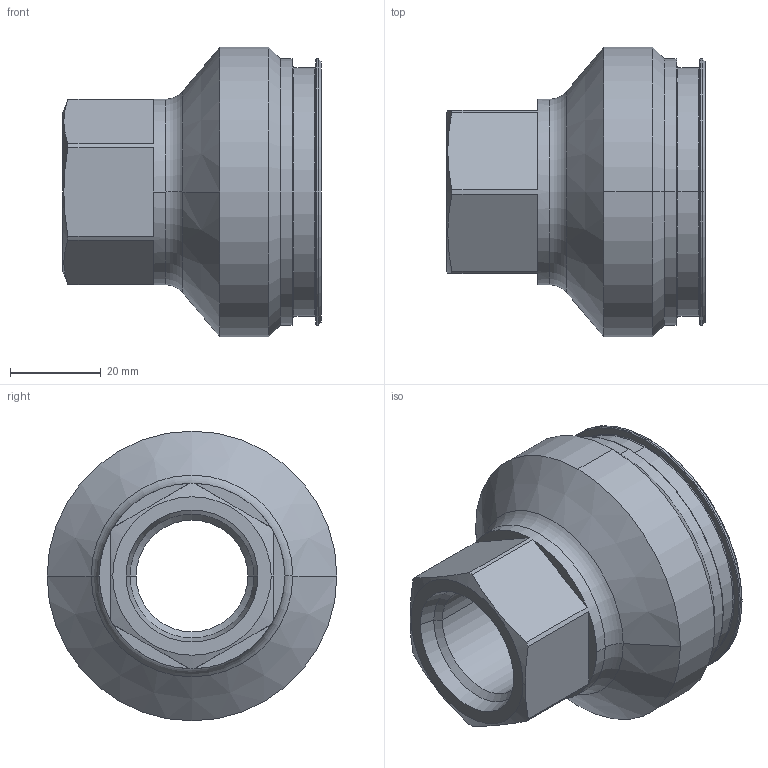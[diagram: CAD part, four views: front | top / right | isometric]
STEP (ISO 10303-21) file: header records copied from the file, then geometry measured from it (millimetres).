
FILE_DESCRIPTION((''),'2;1');
FILE_NAME('47011268','2025-11-14T10:46:39',('p.max'),(''),'CREO PARAMETRIC BY PTC INC, 2023254','CREO PARAMETRIC BY PTC INC, 2023254','');
FILE_SCHEMA(('AUTOMOTIVE_DESIGN { 1 0 10303 214 1 1 1 1 }'));
Length unit declared in the file: millimetre
Products named in the file (1): 47011268
Bounding box: 57 x 64 x 64 mm (x, y, z)
Volume: 49318.8 mm3; surface area: 19260.7 mm2
Topology: 1 solids, 1 shells, 62 faces, 140 edges, 84 vertices
Faces by surface type: plane 18, cone 16, cylinder 16, torus 12
Entity records: 2309 total; most frequent: CARTESIAN_POINT 350, DIRECTION 338, ORIENTED_EDGE 280, AXIS2_PLACEMENT_3D 144, PRESENTATION_STYLE_ASSIGNMENT 141, STYLED_ITEM 141, CURVE_STYLE 140, EDGE_CURVE 140
